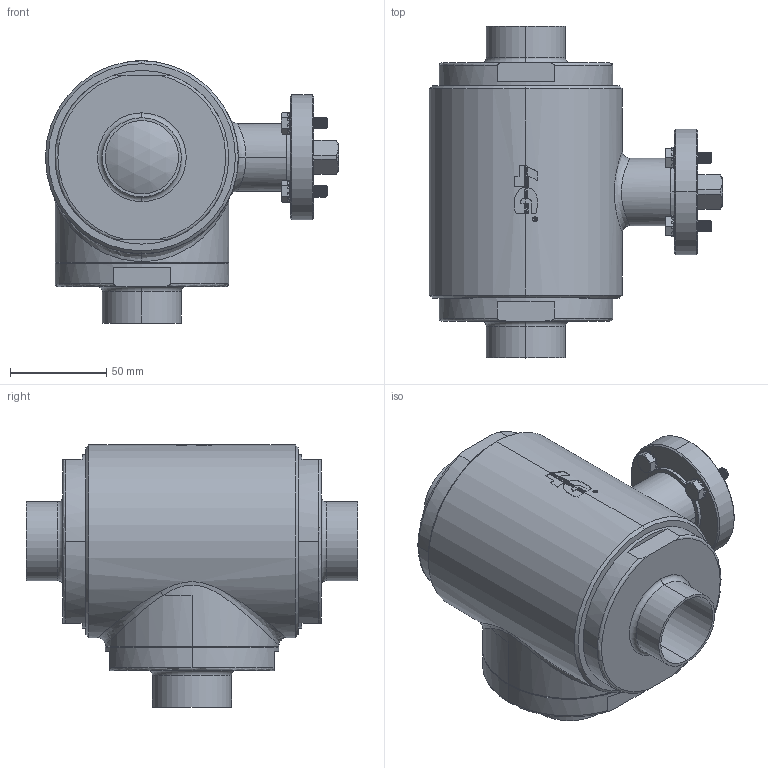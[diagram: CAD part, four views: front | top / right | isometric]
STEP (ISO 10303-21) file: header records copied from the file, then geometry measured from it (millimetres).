
FILE_DESCRIPTION((''),'2;1');
FILE_NAME('PARTE_VUOTA','2022-06-07T15:31:21',('alfio.taboni'),('CDM Tecnoconsulting'),'CREO PARAMETRIC BY PTC INC, 2020053','CREO PARAMETRIC BY PTC INC, 2020053','');
FILE_SCHEMA(('CONFIG_CONTROL_DESIGN','SHAPE_APPEARANCE_LAYERS_GROUPS'));
Products named in the file (1): PARTE_VUOTA
Bounding box: 152 x 172 x 136 mm (x, y, z)
Volume: 930728.5 mm3; surface area: 193664.9 mm2
Topology: 1 solids, 20 shells, 1424 faces, 3983 edges, 2528 vertices
Faces by surface type: cylinder 503, plane 454, cone 195, bspline 131, torus 82, extrusion 55, sphere 4
Entity records: 93691 total; most frequent: CARTESIAN_POINT 47420, ORIENTED_EDGE 7946, DIRECTION 6074, PRESENTATION_STYLE_ASSIGNMENT 3977, STYLED_ITEM 3977, CURVE_STYLE 3975, EDGE_CURVE 3975, VERTEX_POINT 2528
